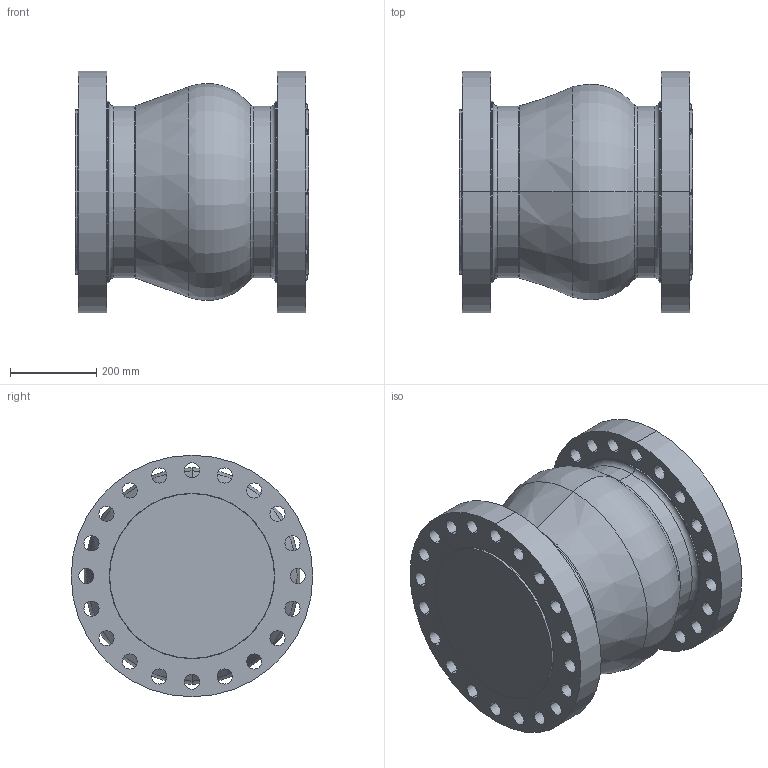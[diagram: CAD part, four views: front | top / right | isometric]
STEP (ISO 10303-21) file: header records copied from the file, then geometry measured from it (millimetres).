
FILE_DESCRIPTION (( 'STEP AP203' ), '1' );
FILE_NAME ('GLC 12 600.step', '2016-07-11T18:00:24', ( '' ), ( '' ), 'SwSTEP 2.0', 'SolidWorks 2015', '' );
FILE_SCHEMA (( 'CONFIG_CONTROL_DESIGN' ));
Length unit declared in the file: inch
Products named in the file (1): GLC 12 600
Bounding box: 539.75 x 558.8 x 558.8 mm (x, y, z)
Volume: 92384460.7 mm3; surface area: 1767334.2 mm2
Topology: 1 solids, 1 shells, 180 faces, 470 edges, 304 vertices
Faces by surface type: cylinder 96, torus 32, plane 30, cone 22
Entity records: 6105 total; most frequent: CARTESIAN_POINT 1259, DIRECTION 1072, ORIENTED_EDGE 940, EDGE_CURVE 470, AXIS2_PLACEMENT_3D 469, VERTEX_POINT 304, CIRCLE 288, EDGE_LOOP 272
